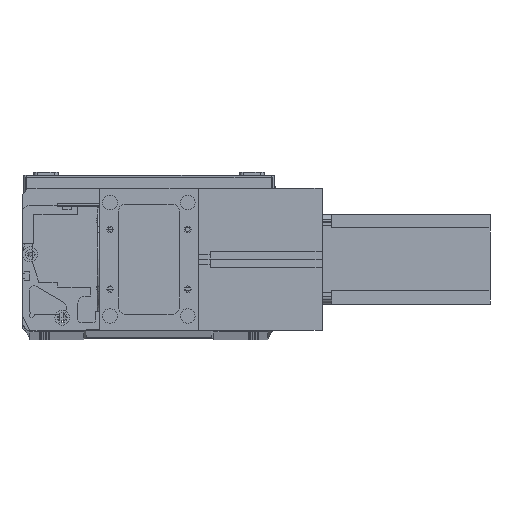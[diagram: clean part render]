
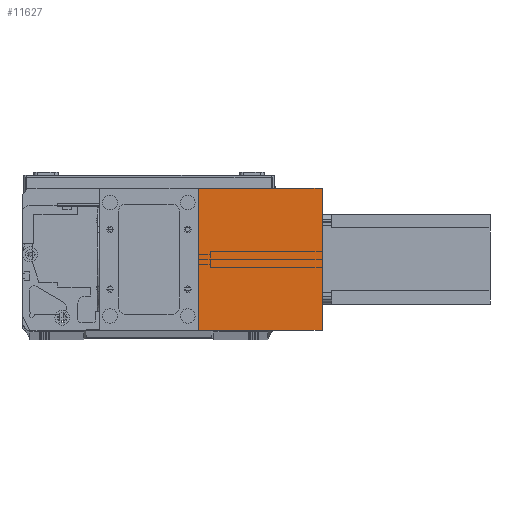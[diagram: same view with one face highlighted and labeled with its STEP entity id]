
A CAD part, top view. The second image highlights one B-rep face of the part: STEP entity #11627.
In plain terms, the highlighted planar face has unit normal (0, 0, 1) as drawn and (1, 0, 0) by its records, which use the part's own axes.
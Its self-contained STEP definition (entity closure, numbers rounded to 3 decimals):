
#1428 = DIRECTION ( 'NONE',  ( 0., 1., 0. ) ) ;
#2045 = VECTOR ( 'NONE', #1428, 1000. ) ;
#2614 = LINE ( 'NONE', #17174, #8437 ) ;
#5462 = CARTESIAN_POINT ( 'NONE',  ( 82., 95., 83. ) ) ;
#6269 = CARTESIAN_POINT ( 'NONE',  ( 82., 95., 83. ) ) ;
#6806 = LINE ( 'NONE', #6269, #19068 ) ;
#7460 = VERTEX_POINT ( 'NONE', #28937 ) ;
#7855 = LINE ( 'NONE', #13709, #2045 ) ;
#8437 = VECTOR ( 'NONE', #9828, 1000. ) ;
#8749 = DIRECTION ( 'NONE',  ( 0., 0., -1. ) ) ;
#9828 = DIRECTION ( 'NONE',  ( 0., 0., -1. ) ) ;
#10201 = VERTEX_POINT ( 'NONE', #22806 ) ;
#10420 = ORIENTED_EDGE ( 'NONE', *, *, #30851, .F. ) ;
#11142 = ORIENTED_EDGE ( 'NONE', *, *, #29702, .F. ) ;
#11275 = DIRECTION ( 'NONE',  ( 0., 0., 1. ) ) ;
#11289 = DIRECTION ( 'NONE',  ( -1., 0., 0. ) ) ;
#11355 = CARTESIAN_POINT ( 'NONE',  ( 82., 0., 83. ) ) ;
#11382 = PLANE ( 'NONE',  #31070 ) ;
#11627 = ADVANCED_FACE ( 'NONE', ( #12212 ), #11382, .F. ) ;
#12212 = FACE_OUTER_BOUND ( 'NONE', #17495, .T. ) ;
#13493 = ORIENTED_EDGE ( 'NONE', *, *, #23143, .T. ) ;
#13664 = ORIENTED_EDGE ( 'NONE', *, *, #20972, .T. ) ;
#13709 = CARTESIAN_POINT ( 'NONE',  ( 82., 0., 83. ) ) ;
#14634 = CARTESIAN_POINT ( 'NONE',  ( 82., 95., 0. ) ) ;
#15629 = LINE ( 'NONE', #20210, #27491 ) ;
#17174 = CARTESIAN_POINT ( 'NONE',  ( 82., 0., 83. ) ) ;
#17495 = EDGE_LOOP ( 'NONE', ( #13493, #11142, #10420, #13664 ) ) ;
#19068 = VECTOR ( 'NONE', #8749, 1000. ) ;
#20210 = CARTESIAN_POINT ( 'NONE',  ( 82., 0., 0. ) ) ;
#20972 = EDGE_CURVE ( 'NONE', #7460, #10201, #2614, .T. ) ;
#22584 = DIRECTION ( 'NONE',  ( 0., 1., 0. ) ) ;
#22806 = CARTESIAN_POINT ( 'NONE',  ( 82., 0., 0. ) ) ;
#23143 = EDGE_CURVE ( 'NONE', #10201, #25358, #15629, .T. ) ;
#25358 = VERTEX_POINT ( 'NONE', #14634 ) ;
#27491 = VECTOR ( 'NONE', #22584, 1000. ) ;
#28937 = CARTESIAN_POINT ( 'NONE',  ( 82., 0., 83. ) ) ;
#29702 = EDGE_CURVE ( 'NONE', #30624, #25358, #6806, .T. ) ;
#30624 = VERTEX_POINT ( 'NONE', #5462 ) ;
#30851 = EDGE_CURVE ( 'NONE', #7460, #30624, #7855, .T. ) ;
#31070 = AXIS2_PLACEMENT_3D ( 'NONE', #11355, #11289, #11275 ) ;
